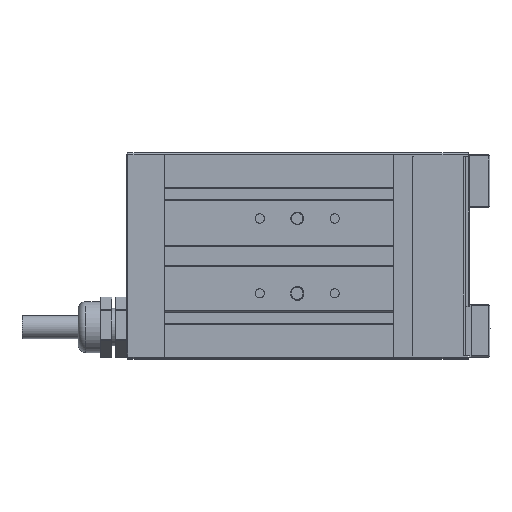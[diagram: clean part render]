
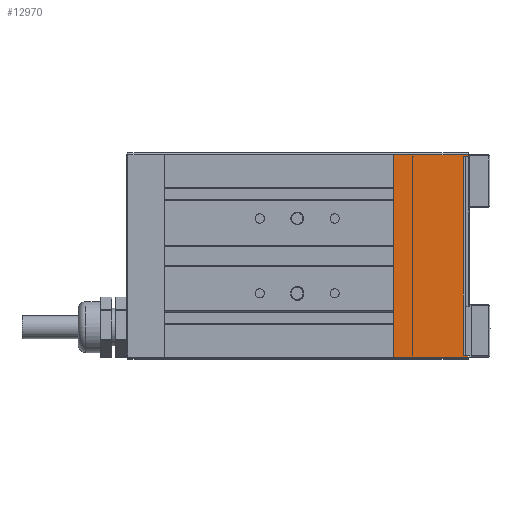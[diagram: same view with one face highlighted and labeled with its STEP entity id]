
A CAD part, top view. The second image highlights one B-rep face of the part: STEP entity #12970.
In plain terms, the highlighted planar face has unit normal (0, 0, 1).
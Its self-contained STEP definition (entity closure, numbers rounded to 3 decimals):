
#295 = VERTEX_POINT ( 'NONE', #533 ) ;
#315 = VECTOR ( 'NONE', #7265, 1000. ) ;
#324 = VERTEX_POINT ( 'NONE', #12286 ) ;
#533 = CARTESIAN_POINT ( 'NONE',  ( 96.498, 10.45, 13.291 ) ) ;
#549 = CARTESIAN_POINT ( 'NONE',  ( 110.498, 10.95, 13.291 ) ) ;
#575 = DIRECTION ( 'NONE',  ( 0., -1., 0. ) ) ;
#843 = CARTESIAN_POINT ( 'NONE',  ( 111.398, 10.45, 13.291 ) ) ;
#880 = CARTESIAN_POINT ( 'NONE',  ( 109.998, 10.45, 13.291 ) ) ;
#1222 = CARTESIAN_POINT ( 'NONE',  ( 111.398, 10.45, 13.291 ) ) ;
#1497 = CARTESIAN_POINT ( 'NONE',  ( 96.508, 10.45, 13.291 ) ) ;
#1556 = CARTESIAN_POINT ( 'NONE',  ( 111.398, 10.45, 13.291 ) ) ;
#1737 = DIRECTION ( 'NONE',  ( 0.707, 0.707, 0. ) ) ;
#2041 = ORIENTED_EDGE ( 'NONE', *, *, #3120, .F. ) ;
#2115 = ORIENTED_EDGE ( 'NONE', *, *, #14043, .T. ) ;
#2215 = DIRECTION ( 'NONE',  ( -1., 0., 0. ) ) ;
#2276 = LINE ( 'NONE', #5543, #9071 ) ;
#2417 = ORIENTED_EDGE ( 'NONE', *, *, #10840, .F. ) ;
#2553 = LINE ( 'NONE', #1222, #13418 ) ;
#2573 = AXIS2_PLACEMENT_3D ( 'NONE', #13501, #9371, #2592 ) ;
#2592 = DIRECTION ( 'NONE',  ( 0., 1., 0. ) ) ;
#2607 = VERTEX_POINT ( 'NONE', #2979 ) ;
#2617 = DIRECTION ( 'NONE',  ( -1., 0., 0. ) ) ;
#2805 = DIRECTION ( 'NONE',  ( -1., 0., 0. ) ) ;
#2929 = CARTESIAN_POINT ( 'NONE',  ( 109.998, 10.45, 13.291 ) ) ;
#2979 = CARTESIAN_POINT ( 'NONE',  ( 96.508, -42.46, 13.291 ) ) ;
#3106 = DIRECTION ( 'NONE',  ( -1., 0., 0. ) ) ;
#3120 = EDGE_CURVE ( 'NONE', #8100, #2607, #4402, .T. ) ;
#3255 = VECTOR ( 'NONE', #1737, 1000. ) ;
#3307 = ORIENTED_EDGE ( 'NONE', *, *, #6946, .T. ) ;
#3322 = CARTESIAN_POINT ( 'NONE',  ( 111.398, -42.55, 13.291 ) ) ;
#3772 = EDGE_CURVE ( 'NONE', #14113, #295, #14604, .T. ) ;
#3961 = LINE ( 'NONE', #549, #315 ) ;
#4132 = DIRECTION ( 'NONE',  ( 0., -1., 0. ) ) ;
#4143 = VECTOR ( 'NONE', #16664, 1000. ) ;
#4271 = LINE ( 'NONE', #1497, #14725 ) ;
#4316 = ORIENTED_EDGE ( 'NONE', *, *, #3772, .F. ) ;
#4371 = EDGE_CURVE ( 'NONE', #13044, #6753, #11395, .T. ) ;
#4402 = LINE ( 'NONE', #10879, #7999 ) ;
#4973 = ORIENTED_EDGE ( 'NONE', *, *, #4371, .T. ) ;
#5069 = LINE ( 'NONE', #6546, #8445 ) ;
#5079 = ORIENTED_EDGE ( 'NONE', *, *, #15364, .F. ) ;
#5155 = DIRECTION ( 'NONE',  ( 0., -1., 0. ) ) ;
#5299 = CARTESIAN_POINT ( 'NONE',  ( 96.698, 10.45, 13.291 ) ) ;
#5543 = CARTESIAN_POINT ( 'NONE',  ( 111.398, -42.55, 13.291 ) ) ;
#5573 = LINE ( 'NONE', #11982, #12406 ) ;
#5595 = ORIENTED_EDGE ( 'NONE', *, *, #9460, .F. ) ;
#5966 = EDGE_LOOP ( 'NONE', ( #14876, #2417, #17618, #4973, #17179, #5079, #2115, #12428 ) ) ;
#6411 = CARTESIAN_POINT ( 'NONE',  ( 109.998, -42.55, 13.291 ) ) ;
#6471 = VERTEX_POINT ( 'NONE', #15568 ) ;
#6546 = CARTESIAN_POINT ( 'NONE',  ( 110.498, -43.05, 13.291 ) ) ;
#6621 = VERTEX_POINT ( 'NONE', #11580 ) ;
#6664 = VECTOR ( 'NONE', #4132, 1000. ) ;
#6753 = VERTEX_POINT ( 'NONE', #14503 ) ;
#6946 = EDGE_CURVE ( 'NONE', #8100, #6621, #2276, .T. ) ;
#7075 = EDGE_CURVE ( 'NONE', #14116, #17202, #8655, .T. ) ;
#7151 = EDGE_CURVE ( 'NONE', #17202, #7409, #16141, .T. ) ;
#7265 = DIRECTION ( 'NONE',  ( 1., 0., 0. ) ) ;
#7409 = VERTEX_POINT ( 'NONE', #6411 ) ;
#7999 = VECTOR ( 'NONE', #11047, 1000. ) ;
#8100 = VERTEX_POINT ( 'NONE', #14026 ) ;
#8141 = ORIENTED_EDGE ( 'NONE', *, *, #17452, .F. ) ;
#8188 = VECTOR ( 'NONE', #2215, 1000. ) ;
#8445 = VECTOR ( 'NONE', #16219, 1000. ) ;
#8655 = LINE ( 'NONE', #1556, #16362 ) ;
#8858 = CARTESIAN_POINT ( 'NONE',  ( 96.508, 10.26, 13.291 ) ) ;
#8873 = VECTOR ( 'NONE', #11325, 1000. ) ;
#9071 = VECTOR ( 'NONE', #2805, 1000. ) ;
#9186 = VERTEX_POINT ( 'NONE', #3322 ) ;
#9236 = LINE ( 'NONE', #13780, #6664 ) ;
#9311 = PLANE ( 'NONE',  #2573 ) ;
#9371 = DIRECTION ( 'NONE',  ( 0., 0., -1. ) ) ;
#9460 = EDGE_CURVE ( 'NONE', #295, #6621, #9236, .T. ) ;
#10207 = VECTOR ( 'NONE', #575, 1000. ) ;
#10840 = EDGE_CURVE ( 'NONE', #6471, #14116, #2553, .T. ) ;
#10879 = CARTESIAN_POINT ( 'NONE',  ( 96.598, -42.55, 13.291 ) ) ;
#11006 = EDGE_LOOP ( 'NONE', ( #3307, #5595, #4316, #13533, #8141, #2041 ) ) ;
#11047 = DIRECTION ( 'NONE',  ( -0.707, 0.707, 0. ) ) ;
#11134 = DIRECTION ( 'NONE',  ( 0., 1., 0. ) ) ;
#11136 = CARTESIAN_POINT ( 'NONE',  ( 96.698, 10.45, 13.291 ) ) ;
#11154 = FACE_OUTER_BOUND ( 'NONE', #5966, .T. ) ;
#11259 = EDGE_CURVE ( 'NONE', #13044, #6471, #3961, .T. ) ;
#11325 = DIRECTION ( 'NONE',  ( 0., -1., 0. ) ) ;
#11359 = CARTESIAN_POINT ( 'NONE',  ( 91.408, -54.55, 13.291 ) ) ;
#11376 = FACE_BOUND ( 'NONE', #11006, .T. ) ;
#11395 = LINE ( 'NONE', #11359, #4143 ) ;
#11492 = LINE ( 'NONE', #15469, #10207 ) ;
#11580 = CARTESIAN_POINT ( 'NONE',  ( 96.498, -42.55, 13.291 ) ) ;
#11982 = CARTESIAN_POINT ( 'NONE',  ( 111.398, -42.55, 13.291 ) ) ;
#12286 = CARTESIAN_POINT ( 'NONE',  ( 111.398, -43.05, 13.291 ) ) ;
#12406 = VECTOR ( 'NONE', #2617, 1000. ) ;
#12428 = ORIENTED_EDGE ( 'NONE', *, *, #7151, .F. ) ;
#12970 = ADVANCED_FACE ( 'NONE', ( #11376, #11154 ), #9311, .F. ) ;
#13044 = VERTEX_POINT ( 'NONE', #16423 ) ;
#13418 = VECTOR ( 'NONE', #5155, 1000. ) ;
#13501 = CARTESIAN_POINT ( 'NONE',  ( 110.498, 10.45, 13.291 ) ) ;
#13533 = ORIENTED_EDGE ( 'NONE', *, *, #13669, .F. ) ;
#13669 = EDGE_CURVE ( 'NONE', #16666, #14113, #14139, .T. ) ;
#13780 = CARTESIAN_POINT ( 'NONE',  ( 96.498, 10.45, 13.291 ) ) ;
#14026 = CARTESIAN_POINT ( 'NONE',  ( 96.598, -42.55, 13.291 ) ) ;
#14043 = EDGE_CURVE ( 'NONE', #9186, #7409, #5573, .T. ) ;
#14113 = VERTEX_POINT ( 'NONE', #5299 ) ;
#14116 = VERTEX_POINT ( 'NONE', #14834 ) ;
#14139 = LINE ( 'NONE', #11136, #3255 ) ;
#14503 = CARTESIAN_POINT ( 'NONE',  ( 91.408, -43.05, 13.291 ) ) ;
#14604 = LINE ( 'NONE', #843, #8188 ) ;
#14725 = VECTOR ( 'NONE', #11134, 1000. ) ;
#14834 = CARTESIAN_POINT ( 'NONE',  ( 111.398, 10.45, 13.291 ) ) ;
#14876 = ORIENTED_EDGE ( 'NONE', *, *, #7075, .F. ) ;
#15364 = EDGE_CURVE ( 'NONE', #9186, #324, #11492, .T. ) ;
#15469 = CARTESIAN_POINT ( 'NONE',  ( 111.398, -16.05, 13.291 ) ) ;
#15568 = CARTESIAN_POINT ( 'NONE',  ( 111.398, 10.95, 13.291 ) ) ;
#16141 = LINE ( 'NONE', #2929, #8873 ) ;
#16219 = DIRECTION ( 'NONE',  ( -1., 0., 0. ) ) ;
#16279 = EDGE_CURVE ( 'NONE', #324, #6753, #5069, .T. ) ;
#16362 = VECTOR ( 'NONE', #3106, 1000. ) ;
#16423 = CARTESIAN_POINT ( 'NONE',  ( 91.408, 10.95, 13.291 ) ) ;
#16664 = DIRECTION ( 'NONE',  ( 0., -1., 0. ) ) ;
#16666 = VERTEX_POINT ( 'NONE', #8858 ) ;
#17179 = ORIENTED_EDGE ( 'NONE', *, *, #16279, .F. ) ;
#17202 = VERTEX_POINT ( 'NONE', #880 ) ;
#17452 = EDGE_CURVE ( 'NONE', #2607, #16666, #4271, .T. ) ;
#17618 = ORIENTED_EDGE ( 'NONE', *, *, #11259, .F. ) ;
